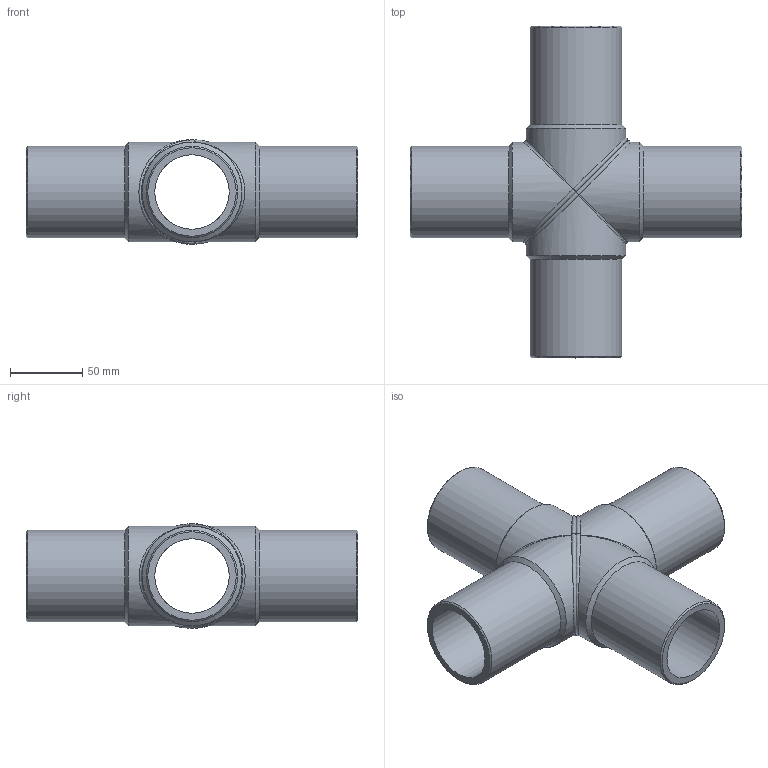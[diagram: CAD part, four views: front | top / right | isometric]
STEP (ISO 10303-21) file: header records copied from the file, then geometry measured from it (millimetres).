
FILE_DESCRIPTION(/* description */ ('Unknown'),/* implementation_level */ '2;1');
FILE_NAME(/* name */ 'CRP063C',/* time_stamp */ '2022-07-07T16:55:38+02:00',/* author */ ('Unknown'),/* organization */ ('Unknown'),/* preprocessor_version */ 'ST-DEVELOPER v18.102',/* originating_system */ 'Solid Edge',/* authorisation */ 'Unknown');
FILE_SCHEMA (('AUTOMOTIVE_DESIGN {1 0 10303 214 3 1 1}'));
Length unit declared in the file: millimetre
Products named in the file (2): CRP063C
Assembly tree (2 placements, depth 2):
  CRP063C
    CRP063C  x2
Bounding box: 229 x 229 x 71.99 mm (x, y, z)
Volume: 462220.1 mm3; surface area: 148411.3 mm2
Topology: 2 solids, 2 shells, 32 faces, 90 edges, 60 vertices
Faces by surface type: cylinder 12, cone 8, bspline 6, plane 6
Full cylindrical faces by diameter (mm): 51.4 x4, 63 x4, 69 x4
Entity records: 1371 total; most frequent: CARTESIAN_POINT 987, DIRECTION 66, ORIENTED_EDGE 60, AXIS2_PLACEMENT_3D 33, EDGE_CURVE 30, EDGE_LOOP 29, FACE_BOUND 29, VERTEX_POINT 25
